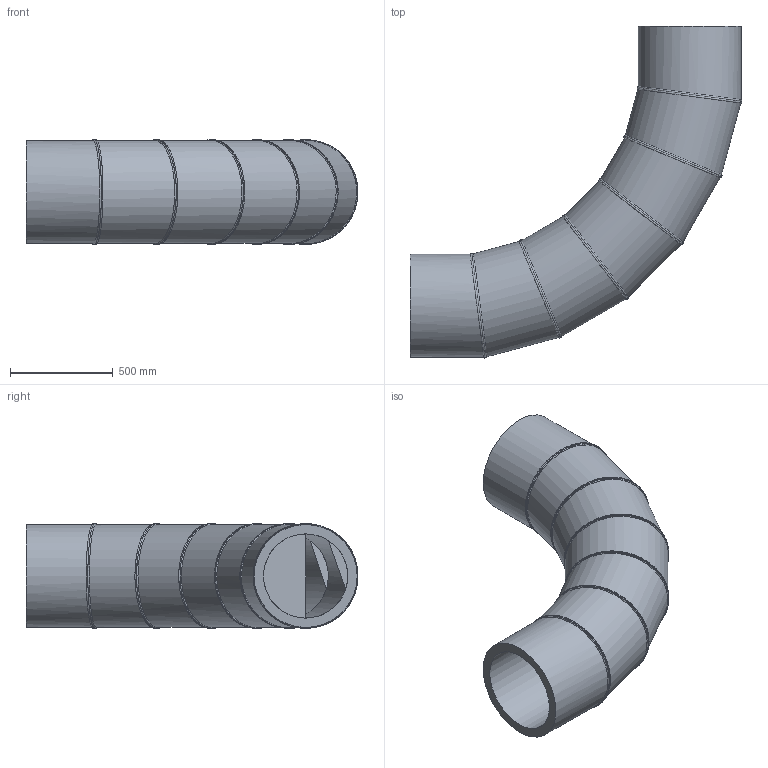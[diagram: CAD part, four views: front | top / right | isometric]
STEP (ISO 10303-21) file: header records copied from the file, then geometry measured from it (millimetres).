
FILE_DESCRIPTION(/* description */ ('Unknown'),/* implementation_level */ '2;1');
FILE_NAME(/* name */ 'Curva 90° a settore DE500 SDR11',/* time_stamp */ '2022-07-27T09:10:29+02:00',/* author */ ('Unknown'),/* organization */ ('Unknown'),/* preprocessor_version */ 'ST-DEVELOPER v18.102',/* originating_system */ 'Solid Edge',/* authorisation */ 'Unknown');
FILE_SCHEMA (('AUTOMOTIVE_DESIGN {1 0 10303 214 3 1 1}'));
Length unit declared in the file: millimetre
Products named in the file (3): Curva 90° a settore DE500 SDR11; Tubo x Gomito 90° DE500 SDR11 - 2; Tubo x Gomito 90° DE500 SDR11 - 1
Assembly tree (7 placements, depth 2):
  Curva 90° a settore DE500 SDR11
    Tubo x Gomito 90° DE500 SDR11 - 2  x5
    Tubo x Gomito 90° DE500 SDR11 - 1  x2
Bounding box: 1611.97 x 1611.97 x 507.97 mm (x, y, z)
Volume: 144422444.6 mm3; surface area: 7344297.2 mm2
Topology: 7 solids, 7 shells, 64 faces, 143 edges, 93 vertices
Faces by surface type: cylinder 38, plane 14, bspline 12
Full cylindrical faces by diameter (mm): 409.2 x7, 500 x7
Entity records: 2504 total; most frequent: CARTESIAN_POINT 2081, DIRECTION 78, ORIENTED_EDGE 52, AXIS2_PLACEMENT_3D 39, EDGE_LOOP 28, FACE_BOUND 28, EDGE_CURVE 26, VERTEX_POINT 20
